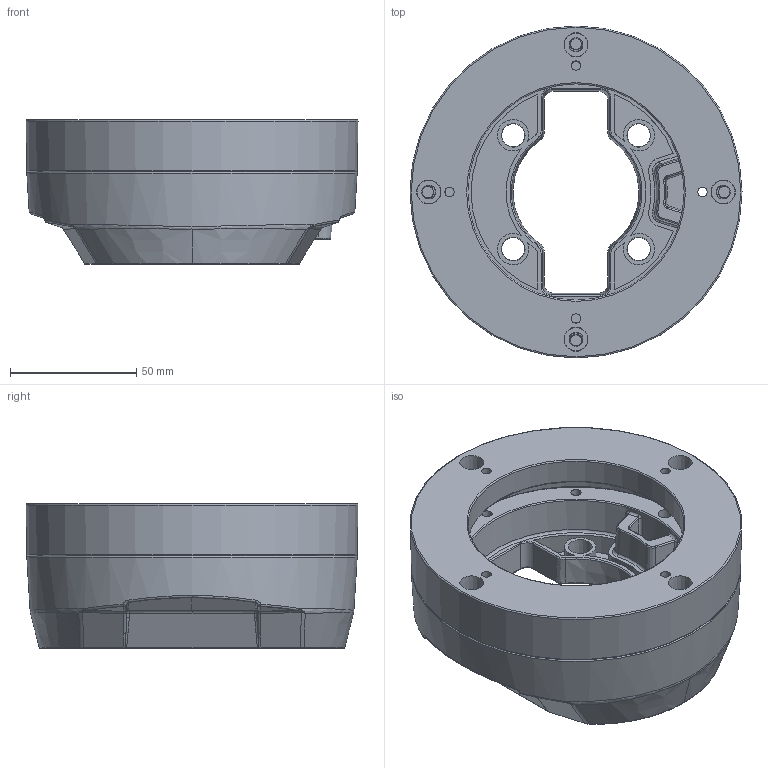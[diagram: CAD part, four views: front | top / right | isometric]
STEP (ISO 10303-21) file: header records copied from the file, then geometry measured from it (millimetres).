
FILE_DESCRIPTION(/* description */ (''),/* implementation_level */ '2;1');
FILE_NAME(/* name */ '75-110-5090.stp',/* time_stamp */ '2023-01-13T16:31:21+08:00',/* author */ (''),/* organization */ (''),/* preprocessor_version */ 'ST-DEVELOPER v11',/* originating_system */ 'SIEMENS PLM Software NX 7.0',/* authorisation */ '');
FILE_SCHEMA (('AUTOMOTIVE_DESIGN { 1 0 10303 214 1 1 1 1 }'));
Length unit declared in the file: millimetre
Products named in the file (1): PCCFB1eyvw
Bounding box: 131.7 x 131.7 x 57.3 mm (x, y, z)
Volume: 302554.8 mm3; surface area: 98472.4 mm2
Topology: 2 solids, 2 shells, 791 faces, 1799 edges, 1040 vertices
Faces by surface type: bspline 302, cylinder 147, plane 120, torus 116, cone 96, sphere 10
Full cylindrical faces by diameter (mm): 4 x1, 85.8 x1
Entity records: 32286 total; most frequent: CARTESIAN_POINT 11092, ORIENTED_EDGE 3454, DIRECTION 3011, EDGE_CURVE 1727, AXIS2_PLACEMENT_3D 1332, VERTEX_POINT 1025, EDGE_LOOP 906, PRESENTATION_STYLE_ASSIGNMENT 793
